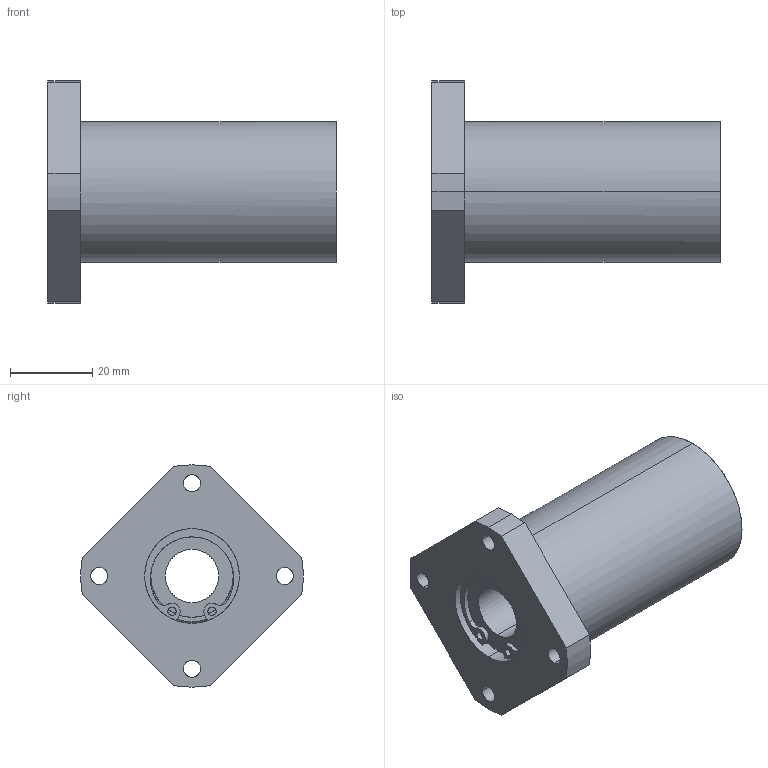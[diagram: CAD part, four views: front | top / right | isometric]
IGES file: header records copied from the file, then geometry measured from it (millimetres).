
Global section: file name: No Iges File Name specified; native system: AutoDesk Inventor R10; preprocessor: AutoDesk Inventor Iges Exporter R10; author: No Author specified; organization: No Organization specified; date: 20101214.135714; units: millimetre
Bounding box: 70 x 53.92 x 54 mm (x, y, z)
Surface area: 16814.3 mm2 (no closed solid volume)
Topology: 0 solids, 0 shells, 119 faces, 848 edges, 848 vertices
Faces by surface type: bspline 119
